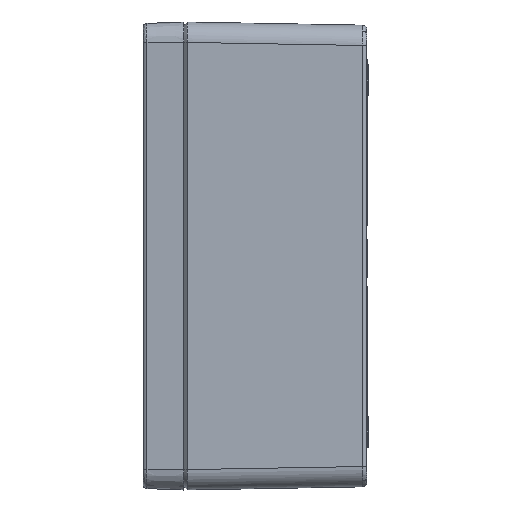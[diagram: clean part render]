
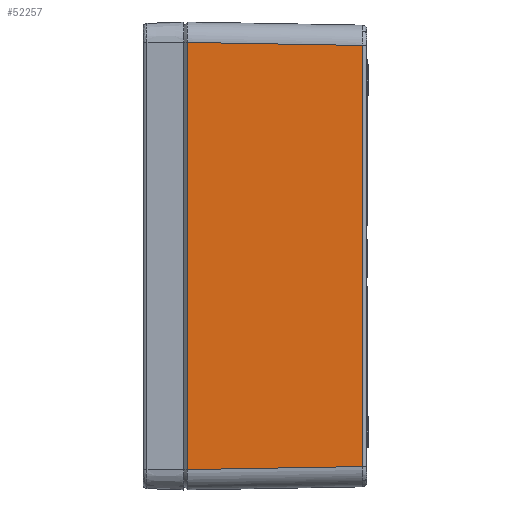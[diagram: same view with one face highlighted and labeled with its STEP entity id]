
A CAD part, left-side view. The second image highlights one B-rep face of the part: STEP entity #52257.
In plain terms, the highlighted planar face has unit normal (-1, -0.018, 0).
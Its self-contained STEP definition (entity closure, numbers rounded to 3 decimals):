
#2462 = VECTOR ( 'NONE', #59248, 1000. ) ;
#2783 = EDGE_CURVE ( 'NONE', #23269, #14393, #64658, .T. ) ;
#5122 = VERTEX_POINT ( 'NONE', #51501 ) ;
#5457 = PLANE ( 'NONE',  #54000 ) ;
#7510 = CARTESIAN_POINT ( 'NONE',  ( -198.463, -88.035, -115. ) ) ;
#8086 = ORIENTED_EDGE ( 'NONE', *, *, #52419, .F. ) ;
#8984 = EDGE_LOOP ( 'NONE', ( #32158, #55907, #64634, #8086 ) ) ;
#10727 = CARTESIAN_POINT ( 'NONE',  ( -200., 0., -115. ) ) ;
#14393 = VERTEX_POINT ( 'NONE', #45232 ) ;
#18623 = LINE ( 'NONE', #46015, #50609 ) ;
#20000 = CARTESIAN_POINT ( 'NONE',  ( -199.969, -1.787, 104.97 ) ) ;
#23269 = VERTEX_POINT ( 'NONE', #44254 ) ;
#24255 = LINE ( 'NONE', #7510, #66140 ) ;
#29584 = LINE ( 'NONE', #38920, #2462 ) ;
#30420 = DIRECTION ( 'NONE',  ( 0., 0., -1. ) ) ;
#31955 = EDGE_CURVE ( 'NONE', #5122, #67700, #29584, .T. ) ;
#32158 = ORIENTED_EDGE ( 'NONE', *, *, #31955, .T. ) ;
#33755 = DIRECTION ( 'NONE',  ( 0.017, -1., 0.017 ) ) ;
#34940 = FACE_OUTER_BOUND ( 'NONE', #8984, .T. ) ;
#38920 = CARTESIAN_POINT ( 'NONE',  ( -198.463, -88.035, 103.465 ) ) ;
#42448 = DIRECTION ( 'NONE',  ( -1., -0.017, 0. ) ) ;
#44169 = VECTOR ( 'NONE', #33755, 1000. ) ;
#44254 = CARTESIAN_POINT ( 'NONE',  ( -199.969, -1.787, -104.97 ) ) ;
#45232 = CARTESIAN_POINT ( 'NONE',  ( -198.463, -88.035, -103.465 ) ) ;
#46015 = CARTESIAN_POINT ( 'NONE',  ( -199.969, -1.787, -115. ) ) ;
#50609 = VECTOR ( 'NONE', #30420, 1000. ) ;
#51501 = CARTESIAN_POINT ( 'NONE',  ( -198.463, -88.035, 103.465 ) ) ;
#52257 = ADVANCED_FACE ( 'NONE', ( #34940 ), #5457, .T. ) ;
#52419 = EDGE_CURVE ( 'NONE', #5122, #14393, #24255, .T. ) ;
#54000 = AXIS2_PLACEMENT_3D ( 'NONE', #10727, #42448, #57517 ) ;
#54770 = DIRECTION ( 'NONE',  ( 0., 0., -1. ) ) ;
#55907 = ORIENTED_EDGE ( 'NONE', *, *, #67349, .T. ) ;
#57517 = DIRECTION ( 'NONE',  ( 0.017, -1., 0. ) ) ;
#59248 = DIRECTION ( 'NONE',  ( -0.017, 1., 0.017 ) ) ;
#64207 = CARTESIAN_POINT ( 'NONE',  ( -199.969, -1.787, -104.97 ) ) ;
#64634 = ORIENTED_EDGE ( 'NONE', *, *, #2783, .T. ) ;
#64658 = LINE ( 'NONE', #64207, #44169 ) ;
#66140 = VECTOR ( 'NONE', #54770, 1000. ) ;
#67349 = EDGE_CURVE ( 'NONE', #67700, #23269, #18623, .T. ) ;
#67700 = VERTEX_POINT ( 'NONE', #20000 ) ;
